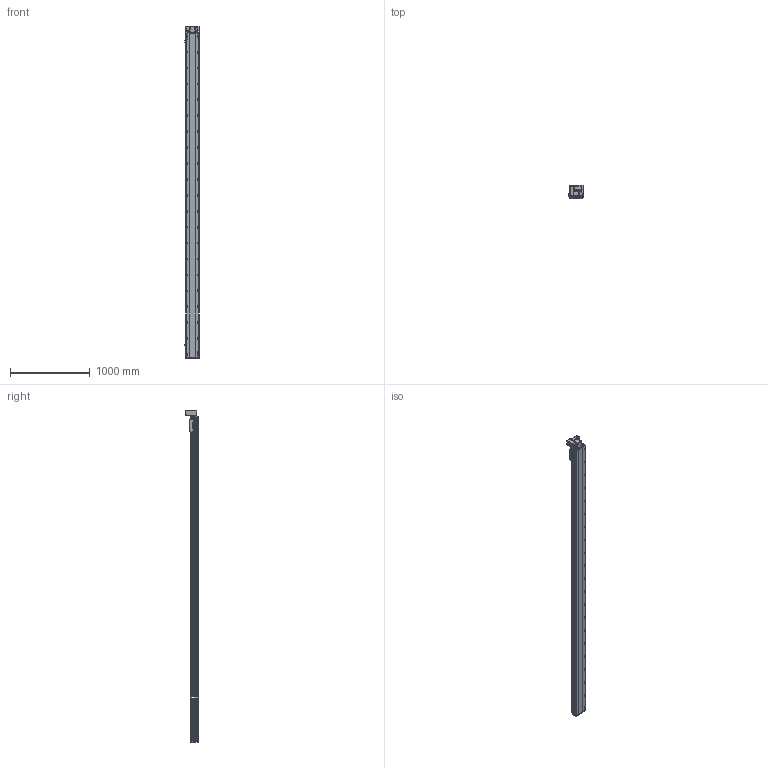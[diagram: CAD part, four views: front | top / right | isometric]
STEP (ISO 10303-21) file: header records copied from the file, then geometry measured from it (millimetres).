
FILE_DESCRIPTION (( 'STEP AP214' ), '1' );
FILE_NAME ('RTB17S-XX-3800-LW-M40-C4.STEP', '2025-12-11T07:27:16', ( '' ), ( '' ), 'SwSTEP 2.0', 'SolidWorks 2018', '' );
FILE_SCHEMA (( 'AUTOMOTIVE_DESIGN' ));
Length unit declared in the file: millimetre
Products named in the file (14): RTB17S-XX-3800-LW-M40-C4; 400W侜督萇儂^RTB17S-XX-XX-LW-M40-C4; RTB17S-L-004佪裝蹟譫蟀諉釱^RTB17S-XX-XX-LW-M40-C4; RTH13-BL-012覜茼え俋离^RTB17S-XX-XX-LW-M40-C4; RTB14-L-018P^RTB17S-LW-々湍釱蚾饜-400W_RTB17S-XX-XX-LW-M40-C4; RTB14-L-005P--轴承塑胶压盖^RTB17S-LW-皮带座装配-400W_RTB17S-XX-XX-LW-M40-C4; RTB17-R-011菁釱^RTB17S-XX-XX-LW-M40-C4; RTB14-L-008-M20--萇儂啣^RTB17S-LW-々湍釱蚾饜-400W_RTB17S-XX-XX-LW-M40-C4; RTB17S-L-001耜醱啣^RTB17S-XX-XX-LW-M40-C4; RTB17S-L-007奻裔^RTB17S-XX-XX-LW-M40-C4; RTB17S-LW-々湍釱蚾饜-400W^RTB17S-XX-XX-LW-M40-C4; RTB17S-L-014-T20--々湍釱^RTB17S-LW-々湍釱蚾饜-400W_RTB17S-XX-XX-LW-M40-C4; OMRON EE-SX672 传感器^RTB17S-XX-XX-LW-M40-C4; RTB14-L-017P^RTB17S-LW-々湍釱蚾饜-400W_RTB17S-XX-XX-LW-M40-C4
Assembly tree (16 placements, depth 3):
  RTB17S-XX-3800-LW-M40-C4
    RTB17-R-011菁釱^RTB17S-XX-XX-LW-M40-C4
    RTB17S-L-007奻裔^RTB17S-XX-XX-LW-M40-C4
    OMRON EE-SX672 传感器^RTB17S-XX-XX-LW-M40-C4  x3
    RTB17S-L-001耜醱啣^RTB17S-XX-XX-LW-M40-C4
    400W侜督萇儂^RTB17S-XX-XX-LW-M40-C4
    RTB17S-L-004佪裝蹟譫蟀諉釱^RTB17S-XX-XX-LW-M40-C4
    RTH13-BL-012覜茼え俋离^RTB17S-XX-XX-LW-M40-C4
    RTB17S-LW-々湍釱蚾饜-400W^RTB17S-XX-XX-LW-M40-C4
      RTB17S-L-014-T20--々湍釱^RTB17S-LW-々湍釱蚾饜-400W_RTB17S-XX-XX-LW-M40-C4
      RTB14-L-005P--轴承塑胶压盖^RTB17S-LW-皮带座装配-400W_RTB17S-XX-XX-LW-M40-C4
      RTB14-L-008-M20--萇儂啣^RTB17S-LW-々湍釱蚾饜-400W_RTB17S-XX-XX-LW-M40-C4
      RTB14-L-017P^RTB17S-LW-々湍釱蚾饜-400W_RTB17S-XX-XX-LW-M40-C4  x2
      RTB14-L-018P^RTB17S-LW-々湍釱蚾饜-400W_RTB17S-XX-XX-LW-M40-C4
Bounding box: 186 x 160.5 x 4172.5 mm (x, y, z)
Volume: 35210719.4 mm3; surface area: 3987181.4 mm2
Topology: 15 solids, 15 shells, 2429 faces, 6843 edges, 4473 vertices
Faces by surface type: plane 1096, cylinder 885, bspline 301, cone 139, torus 8
Entity records: 73385 total; most frequent: CARTESIAN_POINT 21048, ORIENTED_EDGE 10530, DIRECTION 9656, EDGE_CURVE 5265, VERTEX_POINT 3461, AXIS2_PLACEMENT_3D 3391, VECTOR 2874, LINE 2874
